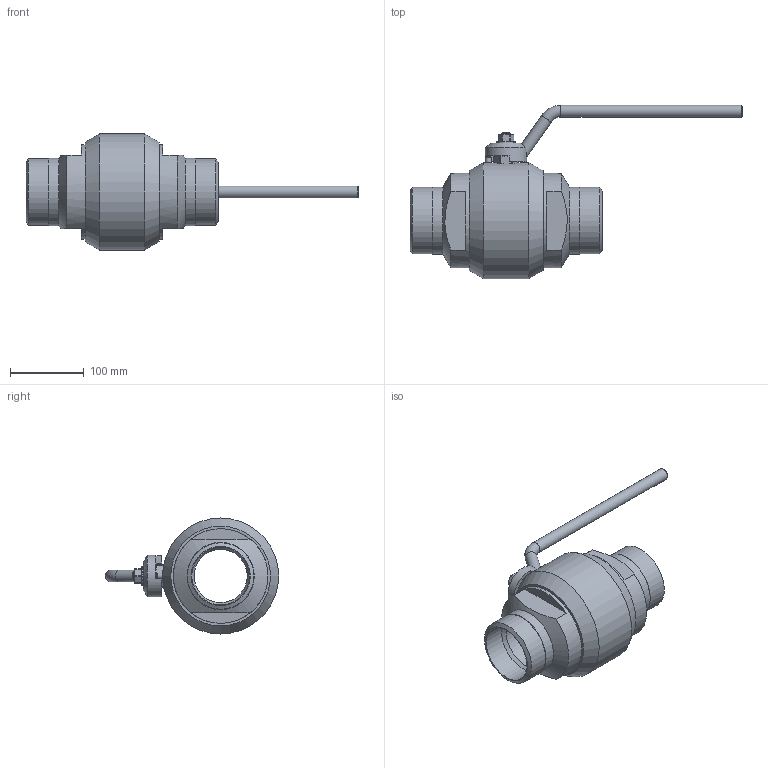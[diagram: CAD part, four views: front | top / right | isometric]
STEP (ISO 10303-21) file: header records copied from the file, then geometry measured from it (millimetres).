
FILE_DESCRIPTION(('STEP AP203'), '1');
FILE_NAME('ZARD 080.025.40.P.stp', '2013-12-06T11:28:41', ('Ñèçîâ À.Í.'), ('ÎÎÎ "ÈÊ Ýíåðïðåä-ßðäîñ"'), 'ASCON STEP Converter 1.3', 'Kompas 3D', '');
FILE_SCHEMA(('CONFIG_CONTROL_DESIGN','SUPPORT_RESOURCE_SCHEMA'));
Length unit declared in the file: millimetre
Products named in the file (1): 268
Bounding box: 449.31 x 234.5 x 157 mm (x, y, z)
Volume: 1781829.3 mm3; surface area: 231070.7 mm2
Topology: 1 solids, 3 shells, 139 faces, 331 edges, 205 vertices
Faces by surface type: plane 53, cylinder 46, cone 32, torus 8
Full cylindrical faces by diameter (mm): 8 x2, 12 x2, 16 x2, 22 x1, 24 x2, 24.1 x1, 26 x1, 31.8 x1, 32 x1, 35 x1, 56 x1, 72 x2, 78 x2, 90 x2, 91 x2, 117.8 x1, 128 x2, 157 x1
Entity records: 5807 total; most frequent: CARTESIAN_POINT 2482, DIRECTION 692, ORIENTED_EDGE 662, EDGE_CURVE 331, AXIS2_PLACEMENT_3D 276, VERTEX_POINT 205, EDGE_LOOP 160, LINE 140
